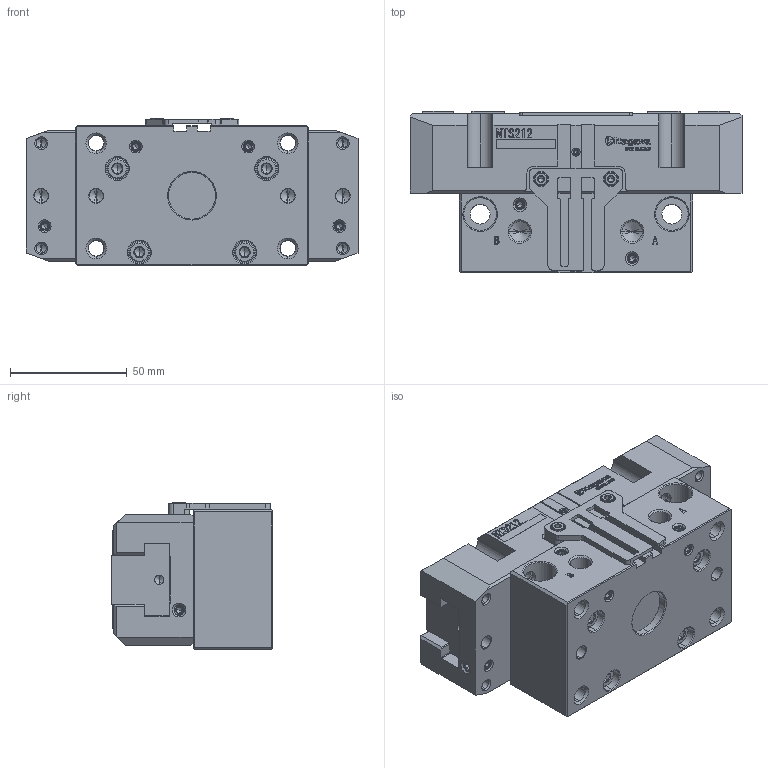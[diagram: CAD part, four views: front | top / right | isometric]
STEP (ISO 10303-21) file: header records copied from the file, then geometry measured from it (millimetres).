
FILE_DESCRIPTION (( 'STEP AP214' ), '1' );
FILE_NAME ('NTS212-HCL.STEP', '2025-01-07T06:02:19', ( '' ), ( '' ), 'SwSTEP 2.0', 'SolidWorks 2022', '' );
FILE_SCHEMA (( 'AUTOMOTIVE_DESIGN' ));
Length unit declared in the file: millimetre
Products named in the file (11): COVER^HP-NTS212; MASTER JAW^HP-NTS212; BOLT1^HP-NTS212; BOLT2^HP-NTS212; S-TOME1^HP-NTS212; BODY^HP-NTS212; S-SARA^HP-NTS212; NTS212-HCL; S-TOME2^HP-NTS212; REAR BODY^HP-NTS212; BRACKET^HP-NTS212
Assembly tree (26 placements, depth 2):
  NTS212-HCL
    BODY^HP-NTS212
    REAR BODY^HP-NTS212
    MASTER JAW^HP-NTS212  x2
    COVER^HP-NTS212
    BRACKET^HP-NTS212
    BOLT1^HP-NTS212  x2
    BOLT2^HP-NTS212  x4
    S-TOME1^HP-NTS212  x9
    S-TOME2^HP-NTS212
    S-SARA^HP-NTS212  x4
Bounding box: 142 x 69 x 63.2 mm (x, y, z)
Volume: 422212.7 mm3; surface area: 100632.5 mm2
Topology: 26 solids, 26 shells, 2010 faces, 5428 edges, 3486 vertices
Faces by surface type: plane 1324, cone 310, cylinder 271, bspline 105
Entity records: 57732 total; most frequent: CARTESIAN_POINT 15422, ORIENTED_EDGE 8940, DIRECTION 7798, EDGE_CURVE 4470, VECTOR 3676, LINE 3676, VERTEX_POINT 2933, AXIS2_PLACEMENT_3D 2061
